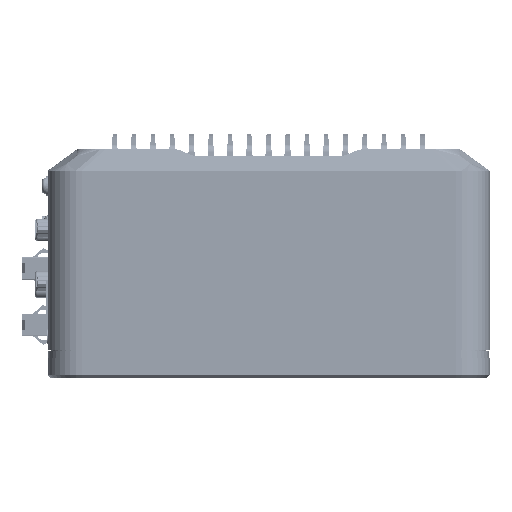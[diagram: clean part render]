
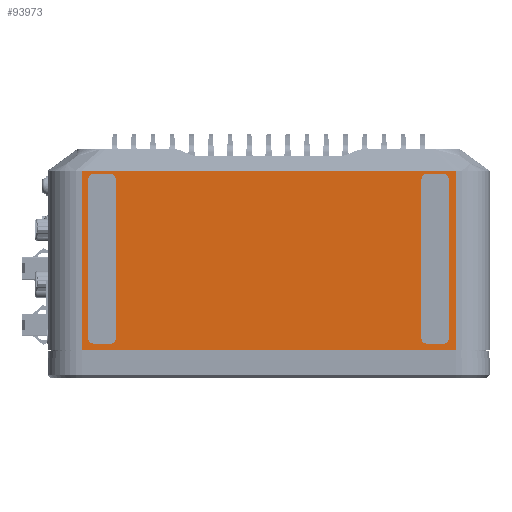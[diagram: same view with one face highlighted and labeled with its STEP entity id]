
A CAD part, front view. The second image highlights one B-rep face of the part: STEP entity #93973.
In plain terms, the highlighted planar face has unit normal (0, -1, 0).
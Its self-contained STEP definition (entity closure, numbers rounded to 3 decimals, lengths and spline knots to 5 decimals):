
#18970=DIRECTION('',(0.,0.,1.));
#18971=VECTOR('',#18970,0.0633);
#18972=CARTESIAN_POINT('',(-0.066,-0.1015,-0.062));
#18973=LINE('',#18972,#18971);
#19182=DIRECTION('',(-1.,0.,0.));
#19183=VECTOR('',#19182,0.132);
#19184=CARTESIAN_POINT('',(0.066,-0.1015,0.0013));
#19185=LINE('',#19184,#19183);
#19186=DIRECTION('',(1.,0.,0.));
#19187=VECTOR('',#19186,0.132);
#19188=CARTESIAN_POINT('',(-0.066,-0.1015,-0.062));
#19189=LINE('',#19188,#19187);
#19190=CARTESIAN_POINT('',(0.06175,-0.1015,-0.00145));
#19191=DIRECTION('',(0.,-1.,0.));
#19192=DIRECTION('',(0.966,0.,0.257));
#19193=AXIS2_PLACEMENT_3D('',#19190,#19191,#19192);
#19195=DIRECTION('',(-1.,0.,0.));
#19196=VECTOR('',#19195,0.006);
#19197=CARTESIAN_POINT('',(0.06175,-0.1015,0.0003));
#19198=LINE('',#19197,#19196);
#19199=CARTESIAN_POINT('',(0.05575,-0.1015,-0.00145));
#19200=DIRECTION('',(0.,-1.,0.));
#19201=DIRECTION('',(0.,0.,1.));
#19202=AXIS2_PLACEMENT_3D('',#19199,#19200,#19201);
#19204=CARTESIAN_POINT('',(0.05575,-0.1015,-0.00175));
#19205=DIRECTION('',(0.,1.,0.));
#19206=DIRECTION('',(-1.,0.,0.));
#19207=AXIS2_PLACEMENT_3D('',#19204,#19205,#19206);
#19209=CARTESIAN_POINT('',(0.05575,-0.1015,-0.05775));
#19210=DIRECTION('',(0.,1.,0.));
#19211=DIRECTION('',(0.,0.,-1.));
#19212=AXIS2_PLACEMENT_3D('',#19209,#19210,#19211);
#19214=CARTESIAN_POINT('',(0.06175,-0.1015,-0.05775));
#19215=DIRECTION('',(0.,1.,0.));
#19216=DIRECTION('',(1.,0.,0.));
#19217=AXIS2_PLACEMENT_3D('',#19214,#19215,#19216);
#19219=CARTESIAN_POINT('',(0.06175,-0.1015,-0.00175));
#19220=DIRECTION('',(0.,1.,0.));
#19221=DIRECTION('',(0.914,0.,0.405));
#19222=AXIS2_PLACEMENT_3D('',#19219,#19220,#19221);
#19224=CARTESIAN_POINT('',(-0.05575,-0.1015,-0.00145));
#19225=DIRECTION('',(0.,-1.,0.));
#19226=DIRECTION('',(0.966,0.,0.257));
#19227=AXIS2_PLACEMENT_3D('',#19224,#19225,#19226);
#19229=DIRECTION('',(-1.,0.,0.));
#19230=VECTOR('',#19229,0.006);
#19231=CARTESIAN_POINT('',(-0.05575,-0.1015,0.0003));
#19232=LINE('',#19231,#19230);
#19233=CARTESIAN_POINT('',(-0.06175,-0.1015,-0.00145));
#19234=DIRECTION('',(0.,-1.,0.));
#19235=DIRECTION('',(0.,0.,1.));
#19236=AXIS2_PLACEMENT_3D('',#19233,#19234,#19235);
#19238=CARTESIAN_POINT('',(-0.06175,-0.1015,-0.00175));
#19239=DIRECTION('',(0.,1.,0.));
#19240=DIRECTION('',(-1.,0.,0.));
#19241=AXIS2_PLACEMENT_3D('',#19238,#19239,#19240);
#19243=CARTESIAN_POINT('',(-0.06175,-0.1015,-0.05775));
#19244=DIRECTION('',(0.,1.,0.));
#19245=DIRECTION('',(0.,0.,-1.));
#19246=AXIS2_PLACEMENT_3D('',#19243,#19244,#19245);
#19248=CARTESIAN_POINT('',(-0.05575,-0.1015,-0.05775));
#19249=DIRECTION('',(0.,1.,0.));
#19250=DIRECTION('',(1.,0.,0.));
#19251=AXIS2_PLACEMENT_3D('',#19248,#19249,#19250);
#19253=CARTESIAN_POINT('',(-0.05575,-0.1015,-0.00175));
#19254=DIRECTION('',(0.,1.,0.));
#19255=DIRECTION('',(0.914,0.,0.405));
#19256=AXIS2_PLACEMENT_3D('',#19253,#19254,#19255);
#19267=DIRECTION('',(0.,0.,-1.));
#19268=VECTOR('',#19267,0.0633);
#19269=CARTESIAN_POINT('',(0.066,-0.1015,0.0013));
#19270=LINE('',#19269,#19268);
#19287=DIRECTION('',(0.,0.,1.));
#19288=VECTOR('',#19287,0.056);
#19289=CARTESIAN_POINT('',(0.0636,-0.1015,-0.05775));
#19290=LINE('',#19289,#19288);
#19299=DIRECTION('',(1.,0.,0.));
#19300=VECTOR('',#19299,0.006);
#19301=CARTESIAN_POINT('',(0.05575,-0.1015,-0.0596));
#19302=LINE('',#19301,#19300);
#19311=DIRECTION('',(0.,0.,-1.));
#19312=VECTOR('',#19311,0.056);
#19313=CARTESIAN_POINT('',(0.0539,-0.1015,-0.00175));
#19314=LINE('',#19313,#19312);
#19463=DIRECTION('',(0.,0.,1.));
#19464=VECTOR('',#19463,0.056);
#19465=CARTESIAN_POINT('',(-0.0539,-0.1015,-0.05775));
#19466=LINE('',#19465,#19464);
#19475=DIRECTION('',(1.,0.,0.));
#19476=VECTOR('',#19475,0.006);
#19477=CARTESIAN_POINT('',(-0.06175,-0.1015,-0.0596));
#19478=LINE('',#19477,#19476);
#19487=DIRECTION('',(0.,0.,-1.));
#19488=VECTOR('',#19487,0.056);
#19489=CARTESIAN_POINT('',(-0.0636,-0.1015,-0.00175));
#19490=LINE('',#19489,#19488);
#50993=CARTESIAN_POINT('',(0.066,-0.1015,0.0013));
#50994=VERTEX_POINT('',#50993);
#50995=CARTESIAN_POINT('',(-0.066,-0.1015,
0.0013));
#50996=VERTEX_POINT('',#50995);
#51070=CARTESIAN_POINT('',(-0.066,-0.1015,-0.062));
#51071=VERTEX_POINT('',#51070);
#51179=CARTESIAN_POINT('',(0.066,-0.1015,-0.062));
#51180=VERTEX_POINT('',#51179);
#51257=CARTESIAN_POINT('',(-0.0539,-0.1015,-0.05775));
#51258=CARTESIAN_POINT('',(-0.05575,-0.1015,-0.0596));
#51259=VERTEX_POINT('',#51257);
#51260=VERTEX_POINT('',#51258);
#51261=CARTESIAN_POINT('',(-0.0539,-0.1015,-0.00175));
#51262=VERTEX_POINT('',#51261);
#51263=CARTESIAN_POINT('',(-0.0636,-0.1015,-0.00175));
#51264=CARTESIAN_POINT('',(-0.0636,-0.1015,-0.05775));
#51265=VERTEX_POINT('',#51263);
#51266=VERTEX_POINT('',#51264);
#51267=CARTESIAN_POINT('',(-0.06175,-0.1015,-0.0596));
#51268=VERTEX_POINT('',#51267);
#51269=CARTESIAN_POINT('',(0.05575,-0.1015,-0.0596));
#51270=CARTESIAN_POINT('',(0.0539,-0.1015,-0.05775));
#51271=VERTEX_POINT('',#51269);
#51272=VERTEX_POINT('',#51270);
#51273=CARTESIAN_POINT('',(0.06175,-0.1015,-0.0596));
#51274=VERTEX_POINT('',#51273);
#51275=CARTESIAN_POINT('',(0.0636,-0.1015,-0.05775));
#51276=VERTEX_POINT('',#51275);
#51277=CARTESIAN_POINT('',(0.0636,-0.1015,-0.00175));
#51278=VERTEX_POINT('',#51277);
#51279=CARTESIAN_POINT('',(0.0539,-0.1015,-0.00175));
#51280=VERTEX_POINT('',#51279);
#62505=CARTESIAN_POINT('',(0.06344,-0.1015,-0.001));
#62506=CARTESIAN_POINT('',(0.06175,-0.1015,0.0003));
#62507=VERTEX_POINT('',#62505);
#62508=VERTEX_POINT('',#62506);
#62509=CARTESIAN_POINT('',(0.05575,-0.1015,0.0003));
#62510=CARTESIAN_POINT('',(0.05406,-0.1015,-0.001));
#62511=VERTEX_POINT('',#62509);
#62512=VERTEX_POINT('',#62510);
#62529=CARTESIAN_POINT('',(-0.05406,-0.1015,-0.001));
#62530=CARTESIAN_POINT('',(-0.05575,-0.1015,0.0003));
#62531=VERTEX_POINT('',#62529);
#62532=VERTEX_POINT('',#62530);
#62533=CARTESIAN_POINT('',(-0.06175,-0.1015,0.0003));
#62534=CARTESIAN_POINT('',(-0.06344,-0.1015,-0.001));
#62535=VERTEX_POINT('',#62533);
#62536=VERTEX_POINT('',#62534);
#93917=CARTESIAN_POINT('',(0.078,-0.1015,-0.061));
#93918=DIRECTION('',(0.,-1.,0.));
#93919=DIRECTION('',(-1.,0.,0.));
#93920=AXIS2_PLACEMENT_3D('',#93917,#93918,#93919);
#93921=PLANE('',#93920);
#93922=ORIENTED_EDGE('',*,*,#89953,.F.);
#93924=ORIENTED_EDGE('',*,*,#93923,.T.);
#93925=ORIENTED_EDGE('',*,*,#93827,.F.);
#93926=ORIENTED_EDGE('',*,*,#93612,.T.);
#93927=EDGE_LOOP('',(#93922,#93924,#93925,#93926));
#93928=FACE_OUTER_BOUND('',#93927,.F.);
#93930=ORIENTED_EDGE('',*,*,#93929,.T.);
#93932=ORIENTED_EDGE('',*,*,#93931,.T.);
#93934=ORIENTED_EDGE('',*,*,#93933,.T.);
#93936=ORIENTED_EDGE('',*,*,#93935,.F.);
#93938=ORIENTED_EDGE('',*,*,#93937,.T.);
#93940=ORIENTED_EDGE('',*,*,#93939,.F.);
#93942=ORIENTED_EDGE('',*,*,#93941,.T.);
#93944=ORIENTED_EDGE('',*,*,#93943,.F.);
#93946=ORIENTED_EDGE('',*,*,#93945,.T.);
#93948=ORIENTED_EDGE('',*,*,#93947,.F.);
#93949=EDGE_LOOP('',(#93930,#93932,#93934,#93936,#93938,#93940,#93942,#93944,
#93946,#93948));
#93950=FACE_BOUND('',#93949,.F.);
#93952=ORIENTED_EDGE('',*,*,#93951,.T.);
#93954=ORIENTED_EDGE('',*,*,#93953,.T.);
#93956=ORIENTED_EDGE('',*,*,#93955,.T.);
#93958=ORIENTED_EDGE('',*,*,#93957,.F.);
#93960=ORIENTED_EDGE('',*,*,#93959,.T.);
#93962=ORIENTED_EDGE('',*,*,#93961,.F.);
#93964=ORIENTED_EDGE('',*,*,#93963,.T.);
#93966=ORIENTED_EDGE('',*,*,#93965,.F.);
#93968=ORIENTED_EDGE('',*,*,#93967,.T.);
#93970=ORIENTED_EDGE('',*,*,#93969,.F.);
#93971=EDGE_LOOP('',(#93952,#93954,#93956,#93958,#93960,#93962,#93964,#93966,
#93968,#93970));
#93972=FACE_BOUND('',#93971,.F.);
#19194=CIRCLE('',#19193,0.00175);
#19203=CIRCLE('',#19202,0.00175);
#19208=CIRCLE('',#19207,0.00185);
#19213=CIRCLE('',#19212,0.00185);
#19218=CIRCLE('',#19217,0.00185);
#19223=CIRCLE('',#19222,0.00185);
#19228=CIRCLE('',#19227,0.00175);
#19237=CIRCLE('',#19236,0.00175);
#19242=CIRCLE('',#19241,0.00185);
#19247=CIRCLE('',#19246,0.00185);
#19252=CIRCLE('',#19251,0.00185);
#19257=CIRCLE('',#19256,0.00185);
#89953=EDGE_CURVE('',#50994,#50996,#19185,.T.);
#93612=EDGE_CURVE('',#51071,#50996,#18973,.T.);
#93827=EDGE_CURVE('',#51071,#51180,#19189,.T.);
#93923=EDGE_CURVE('',#50994,#51180,#19270,.T.);
#93929=EDGE_CURVE('',#62507,#62508,#19194,.T.);
#93931=EDGE_CURVE('',#62508,#62511,#19198,.T.);
#93933=EDGE_CURVE('',#62511,#62512,#19203,.T.);
#93935=EDGE_CURVE('',#51280,#62512,#19208,.T.);
#93937=EDGE_CURVE('',#51280,#51272,#19314,.T.);
#93939=EDGE_CURVE('',#51271,#51272,#19213,.T.);
#93941=EDGE_CURVE('',#51271,#51274,#19302,.T.);
#93943=EDGE_CURVE('',#51276,#51274,#19218,.T.);
#93945=EDGE_CURVE('',#51276,#51278,#19290,.T.);
#93947=EDGE_CURVE('',#62507,#51278,#19223,.T.);
#93951=EDGE_CURVE('',#62531,#62532,#19228,.T.);
#93953=EDGE_CURVE('',#62532,#62535,#19232,.T.);
#93955=EDGE_CURVE('',#62535,#62536,#19237,.T.);
#93957=EDGE_CURVE('',#51265,#62536,#19242,.T.);
#93959=EDGE_CURVE('',#51265,#51266,#19490,.T.);
#93961=EDGE_CURVE('',#51268,#51266,#19247,.T.);
#93963=EDGE_CURVE('',#51268,#51260,#19478,.T.);
#93965=EDGE_CURVE('',#51259,#51260,#19252,.T.);
#93967=EDGE_CURVE('',#51259,#51262,#19466,.T.);
#93969=EDGE_CURVE('',#62531,#51262,#19257,.T.);
#93973=ADVANCED_FACE('',(#93928,#93950,#93972),#93921,.T.);
